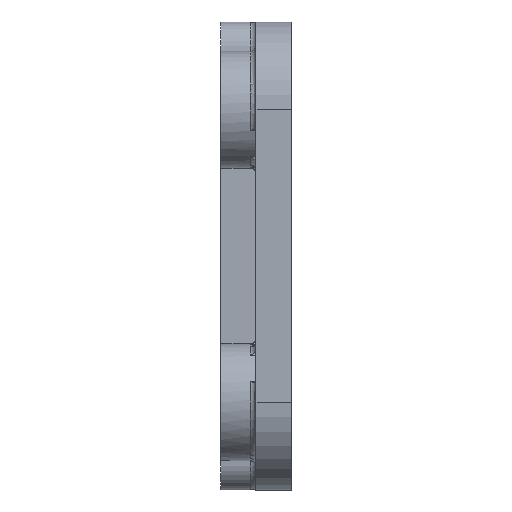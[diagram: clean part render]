
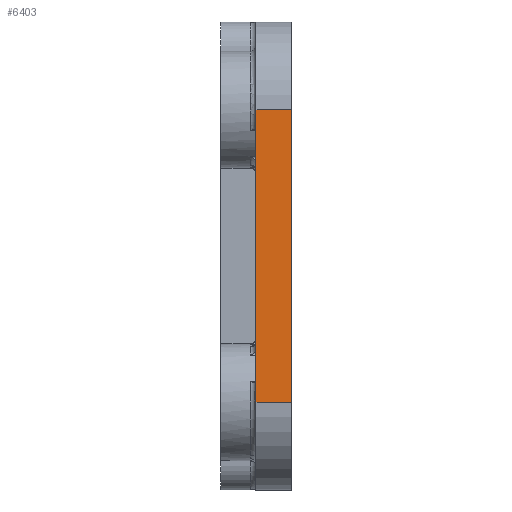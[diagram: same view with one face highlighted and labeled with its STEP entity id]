
A CAD part, left-side view. The second image highlights one B-rep face of the part: STEP entity #6403.
In plain terms, the highlighted planar face has unit normal (-1, 0, 0).
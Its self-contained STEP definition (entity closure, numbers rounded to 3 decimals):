
#39 = CARTESIAN_POINT ( 'NONE',  ( -90., -6., -25. ) ) ;
#184 = LINE ( 'NONE', #10632, #7825 ) ;
#264 = VERTEX_POINT ( 'NONE', #6161 ) ;
#317 = DIRECTION ( 'NONE',  ( 1., 0., 0. ) ) ;
#555 = VERTEX_POINT ( 'NONE', #39 ) ;
#1823 = EDGE_LOOP ( 'NONE', ( #3782, #8084, #9521, #2862 ) ) ;
#2038 = EDGE_CURVE ( 'NONE', #264, #555, #2620, .T. ) ;
#2241 = AXIS2_PLACEMENT_3D ( 'NONE', #8228, #317, #3835 ) ;
#2434 = EDGE_CURVE ( 'NONE', #2950, #6250, #8839, .T. ) ;
#2466 = CARTESIAN_POINT ( 'NONE',  ( -90., -6., 40. ) ) ;
#2620 = LINE ( 'NONE', #10525, #9013 ) ;
#2723 = DIRECTION ( 'NONE',  ( 0., 0., 1. ) ) ;
#2862 = ORIENTED_EDGE ( 'NONE', *, *, #2434, .T. ) ;
#2950 = VERTEX_POINT ( 'NONE', #5197 ) ;
#3326 = LINE ( 'NONE', #2466, #3566 ) ;
#3566 = VECTOR ( 'NONE', #8645, 1000. ) ;
#3782 = ORIENTED_EDGE ( 'NONE', *, *, #10494, .F. ) ;
#3835 = DIRECTION ( 'NONE',  ( 0., 0., -1. ) ) ;
#4706 = PLANE ( 'NONE',  #2241 ) ;
#5197 = CARTESIAN_POINT ( 'NONE',  ( -90., -6., 25. ) ) ;
#5539 = CARTESIAN_POINT ( 'NONE',  ( -90., 6., 25. ) ) ;
#6136 = DIRECTION ( 'NONE',  ( 0., -1., 0. ) ) ;
#6161 = CARTESIAN_POINT ( 'NONE',  ( -90., 0., -25. ) ) ;
#6250 = VERTEX_POINT ( 'NONE', #11352 ) ;
#6403 = ADVANCED_FACE ( 'NONE', ( #7307 ), #4706, .F. ) ;
#6809 = VECTOR ( 'NONE', #9064, 1000. ) ;
#7307 = FACE_OUTER_BOUND ( 'NONE', #1823, .T. ) ;
#7825 = VECTOR ( 'NONE', #2723, 1000. ) ;
#8084 = ORIENTED_EDGE ( 'NONE', *, *, #2038, .T. ) ;
#8228 = CARTESIAN_POINT ( 'NONE',  ( -90., 6., 40. ) ) ;
#8645 = DIRECTION ( 'NONE',  ( 0., 0., 1. ) ) ;
#8839 = LINE ( 'NONE', #5539, #6809 ) ;
#9013 = VECTOR ( 'NONE', #6136, 1000. ) ;
#9064 = DIRECTION ( 'NONE',  ( 0., 1., 0. ) ) ;
#9521 = ORIENTED_EDGE ( 'NONE', *, *, #10039, .T. ) ;
#10039 = EDGE_CURVE ( 'NONE', #555, #2950, #3326, .T. ) ;
#10494 = EDGE_CURVE ( 'NONE', #264, #6250, #184, .T. ) ;
#10525 = CARTESIAN_POINT ( 'NONE',  ( -90., 6., -25. ) ) ;
#10632 = CARTESIAN_POINT ( 'NONE',  ( -90., 0., -40. ) ) ;
#11352 = CARTESIAN_POINT ( 'NONE',  ( -90., 0., 25. ) ) ;
